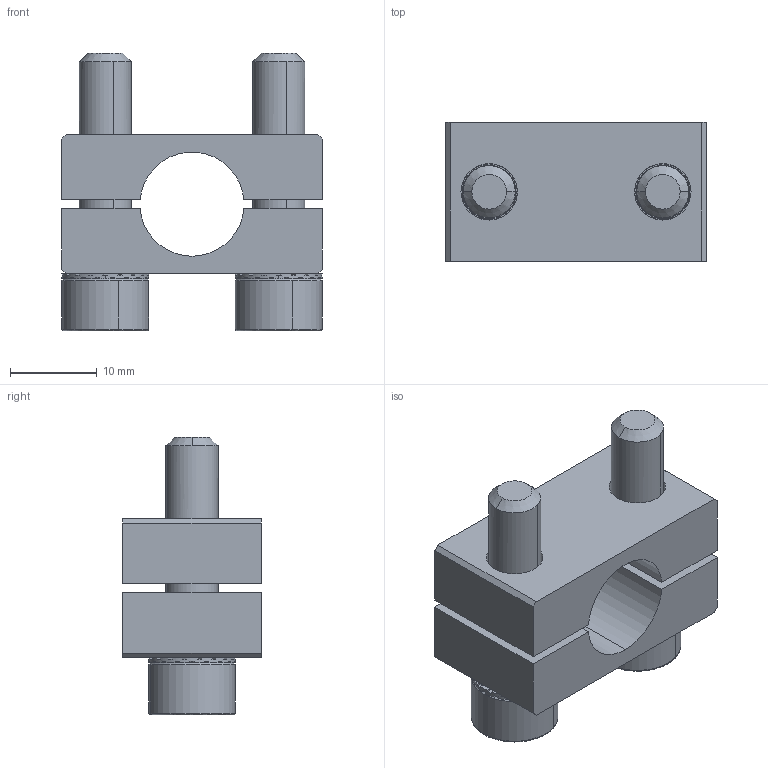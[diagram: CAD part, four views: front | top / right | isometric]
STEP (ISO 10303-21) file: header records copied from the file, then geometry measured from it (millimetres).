
FILE_DESCRIPTION (( 'STEP AP214' ), '1' );
FILE_NAME ('SMBS-12T16.STEP', '2019-11-07T01:30:55', ( '微软用户' ), ( '微软中国' ), 'SwSTEP 2.0', 'SolidWorks 2016', '' );
FILE_SCHEMA (( 'AUTOMOTIVE_DESIGN' ));
Length unit declared in the file: millimetre
Products named in the file (1): SMBS-12T16
Bounding box: 30 x 16 x 32 mm (x, y, z)
Volume: 6865.7 mm3; surface area: 5667.4 mm2
Topology: 6 solids, 6 shells, 365 faces, 1051 edges, 698 vertices
Faces by surface type: plane 326, cylinder 27, cone 8, bspline 4
Entity records: 16217 total; most frequent: CARTESIAN_POINT 2199, DIRECTION 2121, ORIENTED_EDGE 2102, EDGE_CURVE 1051, AXIS2_PLACEMENT_3D 716, VERTEX_POINT 698, LINE 689, VECTOR 689
